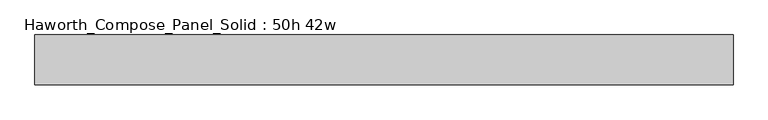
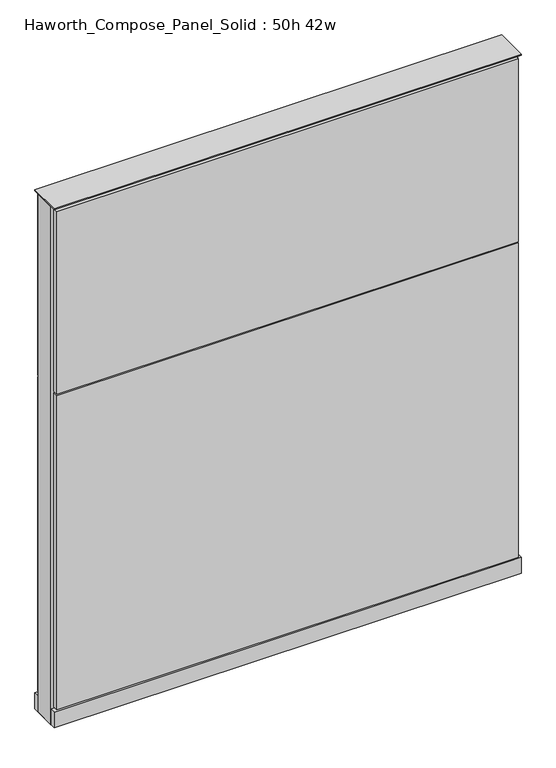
"""IFC4 building model written with IfcOpenShell, lengths in millimetres: furniture geometry, Haworth_Compose_Panel_Solid : 50h 42w."""

from ifc_helpers import new_model, si_unit, point, frame, frame_2d, origin, origin_with_axes, place, context, project, spatial, polyline, circle_curve, trimmed, segment, composite_curve, outline, extrude, source, transform, mapped, element, save


def haworth_compose_panel_solid_50h_42w_08396937(model_context):
    return source(origin(), model_context, "Body", "SweptSolid", [
        extrude(outline(composite_curve([segment(trimmed(circle_curve(frame_2d((-454.7597098, 0.0)), 12.7), [point((-467.4597098, 0.0))], [point((-442.0597098, 0.0))], False, "CARTESIAN"), True, "CONTINUOUS"), segment(trimmed(circle_curve(frame_2d((-454.7597098, 0.0)), 12.7), [point((-442.0597098, 0.0))], [point((-467.4597098, 0.0))], False, "CARTESIAN"), True, "CONTINUOUS")], self_intersect=False)), origin_with_axes(), (0.0, 0.0, 1.0), 12.7),
        extrude(outline(composite_curve([segment(trimmed(circle_curve(frame_2d((459.6402902, 0.0)), 12.7), [point((446.9402902, 0.0))], [point((472.3402902, 0.0))], False, "CARTESIAN"), True, "CONTINUOUS"), segment(trimmed(circle_curve(frame_2d((459.6402902, 0.0)), 12.7), [point((472.3402902, 0.0))], [point((446.9402902, 0.0))], False, "CARTESIAN"), True, "CONTINUOUS")], self_intersect=False)), origin_with_axes(), (0.0, 0.0, 1.0), 12.7),
        extrude(outline(polyline([(529.4902902, -38.1), (-524.6097098, -38.1), (-524.6097098, -25.4), (529.4902902, -25.4), (529.4902902, -38.1)])), frame((0.0, 0.0, 815.975), z_axis=(0.0, 0.0, 1.0), x_axis=(1.0, 0.0, 0.0)), (0.0, 0.0, 1.0), 441.325),
        extrude(outline(polyline([(529.4902902, -38.1), (-524.6097098, -38.1), (-524.6097098, -25.4), (529.4902902, -25.4), (529.4902902, -38.1)])), frame((0.0, 0.0, 53.975), z_axis=(0.0, 0.0, 1.0), x_axis=(1.0, 0.0, 0.0)), (0.0, 0.0, 1.0), 758.825),
        extrude(outline(polyline([(529.4902902, 38.1), (529.4902902, 25.4), (-524.6097098, 25.4), (-524.6097098, 38.1), (529.4902902, 38.1)])), frame((0.0, 0.0, 815.975), z_axis=(0.0, 0.0, 1.0), x_axis=(1.0, 0.0, 0.0)), (0.0, 0.0, 1.0), 441.325),
        extrude(outline(polyline([(529.4902902, 38.1), (529.4902902, 25.4), (-524.6097098, 25.4), (-524.6097098, 38.1), (529.4902902, 38.1)])), frame((0.0, 0.0, 53.975), z_axis=(0.0, 0.0, 1.0), x_axis=(1.0, 0.0, 0.0)), (0.0, 0.0, 1.0), 758.825),
        extrude(outline(polyline([(535.8402902, -25.4), (-530.9597098, -25.4), (-530.9597098, 25.4), (535.8402902, 25.4), (535.8402902, -25.4)])), frame((0.0, 0.0, 12.7), z_axis=(0.0, 0.0, 1.0), x_axis=(1.0, 0.0, 0.0)), (0.0, 0.0, 1.0), 1250.95),
        extrude(outline(polyline([(-530.9597098, 38.1), (535.8402902, 38.1), (535.8402902, -38.1), (-530.9597098, -38.1), (-530.9597098, 38.1)])), frame((0.0, 0.0, 12.7), z_axis=(0.0, 0.0, 1.0), x_axis=(1.0, 0.0, 0.0)), (0.0, 0.0, 1.0), 38.1),
        extrude(outline(polyline([(-530.9597098, 38.1), (535.8402902, 38.1), (535.8402902, -38.1), (-530.9597098, -38.1), (-530.9597098, 38.1)])), frame((0.0, 0.0, 1263.65), z_axis=(0.0, 0.0, 1.0), x_axis=(1.0, 0.0, 0.0)), (0.0, 0.0, 1.0), 3.175),
    ])


if __name__ == "__main__":
    model = new_model("IFC4")
    model_context = context("Model", 3, world=origin())
    ifc_project = project(units=[si_unit("LENGTHUNIT", "METRE", prefix="MILLI")], contexts=[model_context])
    site = spatial("IfcSite", under=ifc_project)
    building = spatial("IfcBuilding", under=site)
    placement = place(None, origin())
    haworth_compose_panel_solid_50h_42w_shape = haworth_compose_panel_solid_50h_42w_08396937(model_context)
    element("IfcFurniture", 1, ObjectType="Haworth_Compose_Panel_Solid : 50h 42w", at=placement, inside=building, context=model_context, shape_type="MappedRepresentation", body=[
        mapped(haworth_compose_panel_solid_50h_42w_shape, transform((0.0, 0.0, 0.0), x_axis=(1.0, 0.0, 0.0), y_axis=(0.0, 1.0, 0.0), z_axis=(0.0, 0.0, 1.0))),
    ])
    save(model, "model.ifc")
